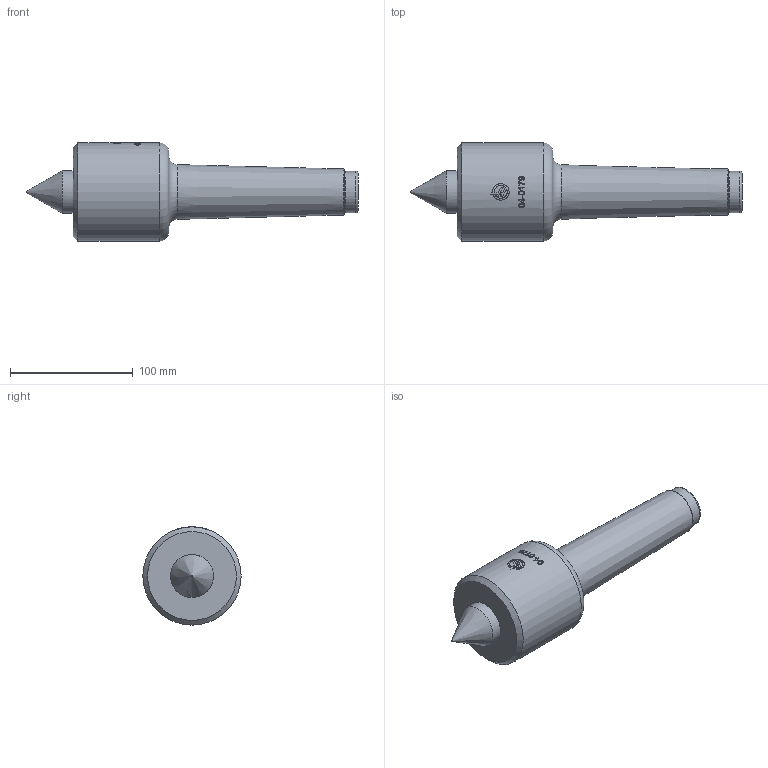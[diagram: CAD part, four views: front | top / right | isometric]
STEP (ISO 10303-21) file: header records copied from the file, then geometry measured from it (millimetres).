
FILE_DESCRIPTION(/* description */ (''),/* implementation_level */ '2;1');
FILE_NAME(/* name */ '04-0179 mt-5 live center.step',/* time_stamp */ '2023-03-07T09:47:04-08:00',/* author */ (''),/* organization */ (''),/* preprocessor_version */ 'ST-DEVELOPER v19.2',/* originating_system */ 'Autodesk Translation Framework v11.17.0.187',/* authorisation */ '');
FILE_SCHEMA (('AUTOMOTIVE_DESIGN { 1 0 10303 214 3 1 1 }'));
Length unit declared in the file: inch
Products named in the file (1): 04-0179 mt-5 live center
Bounding box: 270.51 x 80 x 80 mm (x, y, z)
Volume: 608294.1 mm3; surface area: 48911.3 mm2
Topology: 1 solids, 1 shells, 279 faces, 774 edges, 514 vertices
Faces by surface type: bspline 245, cylinder 17, plane 10, torus 5, cone 2
Full cylindrical faces by diameter (mm): 33.79 x1, 35.004 x1, 80.003 x1
Entity records: 12881 total; most frequent: CARTESIAN_POINT 7360, ORIENTED_EDGE 1548, EDGE_CURVE 774, VERTEX_POINT 514, B_SPLINE_CURVE_WITH_KNOTS 491, DIRECTION 372, EDGE_LOOP 296, FACE_OUTER_BOUND 279
